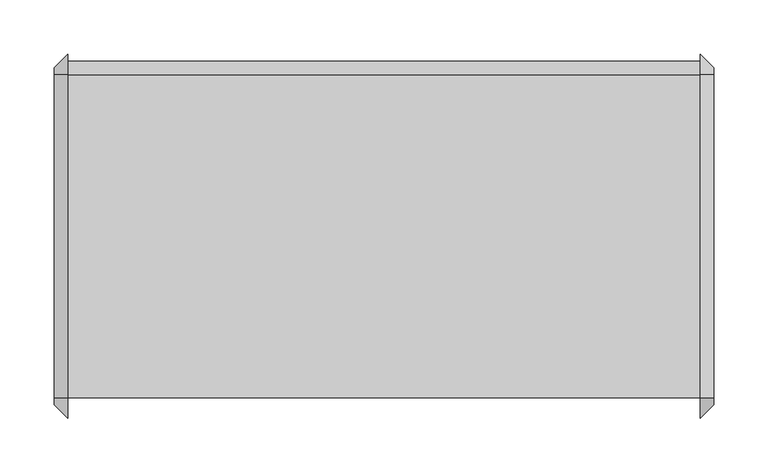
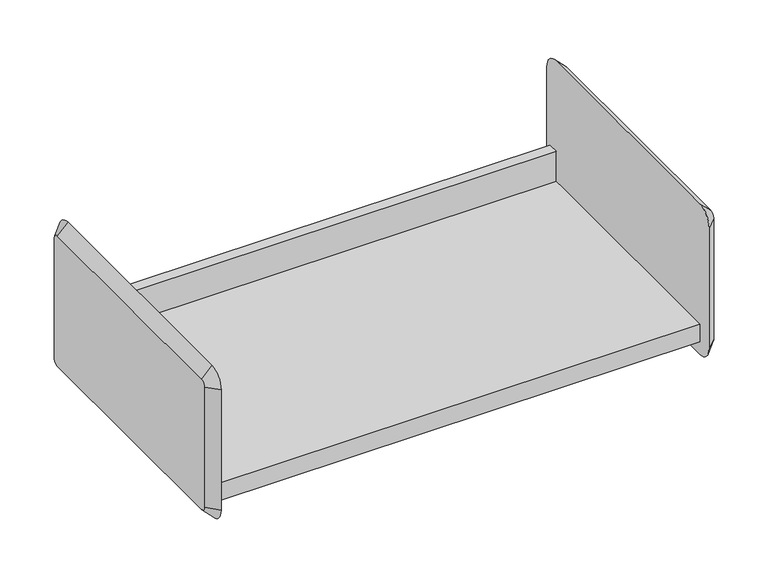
"""IFC4 building model written with IfcOpenShell, lengths in millimetres: furniture geometry."""

from ifc_helpers import new_model, si_unit, frame, origin, place, context, project, spatial, polyline, circle_curve, outline, extrude, source, transform, mapped, element, save
from ifc_brep_helpers import plane_surface, revolved_surface, advanced_brep


def furniture_eaff21fa(model_context):
    return source(origin(), model_context, "Body", "SolidModel", [
        extrude(outline(polyline([(-136.525, 1270.0), (161.925, 1270.0), (161.925, 1308.1), (174.625, 1308.1), (174.625, 1304.925), (165.1, 1304.925), (165.1, 1266.825), (-133.35, 1266.825), (-133.35, 1247.775), (-136.525, 1247.775), (-136.525, 1270.0)])), frame((-416.0420045, 0.0, 0.0), z_axis=(1.0, 0.0, 0.0), x_axis=(0.0, 1.0, 0.0)), (0.0, 0.0, 1.0), 584.2),
        advanced_brep(
        [(180.8579955, 161.925, 1409.7), (180.8579955, -136.525, 1409.7), (180.8579955, -142.875, 1403.35), (180.8579955, -142.875, 1250.95), (180.8579955, -136.525, 1244.6), (180.8579955, 161.925, 1244.6), (180.8579955, 168.275, 1250.95), (180.8579955, 168.275, 1403.35), (168.1579955, 161.925, 1422.4), (168.1579955, 180.975, 1403.35), (168.1579955, 180.975, 1250.95), (168.1579955, 161.925, 1231.9), (168.1579955, -136.525, 1231.9), (168.1579955, -155.575, 1250.95), (168.1579955, -155.575, 1403.35), (168.1579955, -136.525, 1422.4)],
        [
            (0, 1),
            (1, 2, circle_curve(frame((180.8579955, -136.525, 1403.35), z_axis=(1.0, 2.0730084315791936e-12, -2.1742607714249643e-12), x_axis=(2.1742640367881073e-12, 0.0, 1.0)), 6.35)),
            (2, 3),
            (3, 4, circle_curve(frame((180.8579955, -136.525, 1250.95), z_axis=(1.0, 2.059685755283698e-12, 2.0463630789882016e-12), x_axis=(2.059647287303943e-12, -1.0, 0.0)), 6.35)),
            (4, 5),
            (5, 6, circle_curve(frame((180.8579955, 161.925, 1250.95), z_axis=(1.0, 2.088995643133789e-12, -2.1103119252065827e-12), x_axis=(-2.1103612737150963e-12, 0.0, -1.0)), 6.35)),
            (6, 7),
            (7, 0, circle_curve(frame((180.8579955, 161.925, 1403.35), z_axis=(1.0, 2.075672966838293e-12, 1.9824142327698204e-12), x_axis=(-2.075662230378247e-12, 1.0, 0.0)), 6.35)),
            (8, 9, circle_curve(frame((168.1579955, 161.925, 1403.35), z_axis=(-1.0, -2.075672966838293e-12, -1.9824142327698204e-12), x_axis=(-2.075662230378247e-12, 1.0, 0.0)), 19.05)),
            (9, 10),
            (10, 11, circle_curve(frame((168.1579955, 161.925, 1250.95), z_axis=(-1.0, -2.088995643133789e-12, 2.1103119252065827e-12), x_axis=(-2.1103612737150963e-12, 0.0, -1.0)), 19.05)),
            (11, 12),
            (12, 13, circle_curve(frame((168.1579955, -136.525, 1250.95), z_axis=(-1.0, -2.059685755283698e-12, -2.0463630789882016e-12), x_axis=(2.059647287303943e-12, -1.0, 0.0)), 19.05)),
            (13, 14),
            (14, 15, circle_curve(frame((168.1579955, -136.525, 1403.35), z_axis=(-1.0, -2.0730084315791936e-12, 2.1742607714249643e-12), x_axis=(2.1742640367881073e-12, 0.0, 1.0)), 19.05)),
            (15, 8),
            (15, 1),
            (0, 8),
            (14, 2),
            (13, 3),
            (12, 4),
            (11, 5),
            (10, 6),
            (9, 7),
        ],
        [
            plane_surface(frame((180.8579955, 12.7, 1327.15), z_axis=(1.0, 0.0, 0.0), x_axis=(0.0, -1.0, 0.0))),
            plane_surface(frame((168.1579955, 12.7, 1327.15), z_axis=(-1.0, 0.0, 0.0), x_axis=(0.0, -1.0, 0.0))),
            plane_surface(frame((168.1579955, 12.7, 1422.4), z_axis=(0.7071067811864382, 0.0, 0.7071067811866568), x_axis=(0.0, -1.0, 0.0))),
            revolved_surface(polyline([(180.8579955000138, -136.525, 1409.6999999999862), (168.1579955, -136.525, 1422.4)]), (187.2079955, -136.525, 1403.35), (-1.0, -2.0730084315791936e-12, 2.1742607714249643e-12)),
            plane_surface(frame((168.1579955, -155.575, 1327.15), z_axis=(0.707106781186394, -0.7071067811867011, 0.0), x_axis=(0.0, 0.0, -1.0))),
            revolved_surface(polyline([(180.85799550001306, -142.87499999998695, 1250.95), (168.1579955, -155.575, 1250.95)]), (187.2079955, -136.525, 1250.95), (-1.0, -2.059685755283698e-12, -2.0463630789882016e-12)),
            plane_surface(frame((168.1579955, 12.7, 1231.9), z_axis=(0.7071067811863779, 0.0, -0.7071067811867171), x_axis=(0.0, 1.0, 0.0))),
            revolved_surface(polyline([(180.8579955, 161.925, 1244.6000000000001), (168.15799549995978, 161.925, 1231.8999999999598)]), (187.2079955, 161.925, 1250.95), (-1.0, -2.088995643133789e-12, 2.1103119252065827e-12)),
            plane_surface(frame((168.1579955, 180.975, 1327.15), z_axis=(0.707106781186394, 0.7071067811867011, 0.0), x_axis=(0.0, 0.0, 1.0))),
            revolved_surface(polyline([(180.8579955, 168.27500000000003, 1403.35), (168.15799549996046, 180.97500000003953, 1403.35)]), (187.2079955, 161.925, 1403.35), (-1.0, -2.075672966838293e-12, -1.9824142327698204e-12)),
        ],
        [
            (0, [[1, 2, 3, 4, 5, 6, 7, 8]]),
            (1, [[9, 10, 11, 12, 13, 14, 15, 16]]),
            (2, [[-16, 17, -1, 18]]),
            (3, [[-15, 19, -2, -17]]),
            (4, [[-14, 20, -3, -19]]),
            (5, [[-13, 21, -4, -20]]),
            (6, [[-12, 22, -5, -21]]),
            (7, [[-11, 23, -6, -22]]),
            (8, [[-10, 24, -7, -23]]),
            (9, [[-9, -18, -8, -24]]),
        ],
    ),
        advanced_brep(
        [(-428.7420045, -136.525, 1409.7), (-428.7420045, 161.925, 1409.7), (-428.7420045, 168.275, 1403.35), (-428.7420045, 168.275, 1250.95), (-428.7420045, 161.925, 1244.6), (-428.7420045, -136.525, 1244.6), (-428.7420045, -142.875, 1250.95), (-428.7420045, -142.875, 1403.35), (-416.0420045, -136.525, 1422.4), (-416.0420045, -155.575, 1403.35), (-416.0420045, -155.575, 1250.95), (-416.0420045, -136.525, 1231.9), (-416.0420045, 161.925, 1231.9), (-416.0420045, 180.975, 1250.95), (-416.0420045, 180.975, 1403.35), (-416.0420045, 161.925, 1422.4)],
        [
            (0, 1),
            (1, 2, circle_curve(frame((-428.7420045, 161.925, 1403.35), z_axis=(-1.0, 0.0, 0.0), x_axis=(0.0, 0.0, 1.0)), 6.35)),
            (2, 3),
            (3, 4, circle_curve(frame((-428.7420045, 161.925, 1250.95), z_axis=(-1.0, 0.0, 0.0), x_axis=(0.0, 1.0, 0.0)), 6.35)),
            (4, 5),
            (5, 6, circle_curve(frame((-428.7420045, -136.525, 1250.95), z_axis=(-1.0, 0.0, 0.0), x_axis=(0.0, 0.0, -1.0)), 6.35)),
            (6, 7),
            (7, 0, circle_curve(frame((-428.7420045, -136.525, 1403.35), z_axis=(-1.0, 0.0, 0.0), x_axis=(0.0, -1.0, 0.0)), 6.35)),
            (8, 9, circle_curve(frame((-416.0420045, -136.525, 1403.35), z_axis=(1.0, 0.0, 0.0), x_axis=(0.0, -1.0, 0.0)), 19.05)),
            (9, 10),
            (10, 11, circle_curve(frame((-416.0420045, -136.525, 1250.95), z_axis=(1.0, 0.0, 0.0), x_axis=(0.0, 0.0, -1.0)), 19.05)),
            (11, 12),
            (12, 13, circle_curve(frame((-416.0420045, 161.925, 1250.95), z_axis=(1.0, 0.0, 0.0), x_axis=(0.0, 1.0, 0.0)), 19.05)),
            (13, 14),
            (14, 15, circle_curve(frame((-416.0420045, 161.925, 1403.35), z_axis=(1.0, 0.0, 0.0), x_axis=(0.0, 0.0, 1.0)), 19.05)),
            (15, 8),
            (15, 1),
            (0, 8),
            (14, 2),
            (13, 3),
            (12, 4),
            (11, 5),
            (10, 6),
            (9, 7),
        ],
        [
            plane_surface(frame((-428.7420045, 12.7, 1327.15), z_axis=(-1.0, 0.0, 0.0), x_axis=(0.0, -1.0, 0.0))),
            plane_surface(frame((-416.0420045, 12.7, 1327.15), z_axis=(1.0, 0.0, 0.0), x_axis=(0.0, -1.0, 0.0))),
            plane_surface(frame((-416.0420045, 12.7, 1422.4), z_axis=(-0.7071067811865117, 0.0, 0.7071067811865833), x_axis=(0.0, 1.0, 0.0))),
            revolved_surface(polyline([(-428.7420045, 161.925, 1409.7), (-416.0420045, 161.925, 1422.4)]), (-435.0920045, 161.925, 1403.35), (1.0, 0.0, 0.0)),
            plane_surface(frame((-416.0420045, 180.975, 1327.15), z_axis=(-0.7071067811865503, 0.7071067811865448, 0.0), x_axis=(0.0, 0.0, -1.0))),
            revolved_surface(polyline([(-428.7420045, 168.27499999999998, 1250.95), (-416.0420045, 180.975, 1250.95)]), (-435.0920045, 161.925, 1250.95), (1.0, 0.0, 0.0)),
            plane_surface(frame((-416.0420045, 12.7, 1231.9), z_axis=(-0.707106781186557, 0.0, -0.7071067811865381), x_axis=(0.0, -1.0, 0.0))),
            revolved_surface(polyline([(-428.7420045, -136.525, 1244.6000000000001), (-416.0420045, -136.525, 1231.9)]), (-435.0920045, -136.525, 1250.95), (1.0, 0.0, 0.0)),
            plane_surface(frame((-416.0420045, -155.575, 1327.15), z_axis=(-0.7071067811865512, -0.7071067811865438, 0.0), x_axis=(0.0, 0.0, 1.0))),
            revolved_surface(polyline([(-428.7420045, -142.87499999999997, 1403.35), (-416.0420045, -155.575, 1403.35)]), (-435.0920045, -136.525, 1403.35), (1.0, 0.0, 0.0)),
        ],
        [
            (0, [[1, 2, 3, 4, 5, 6, 7, 8]]),
            (1, [[9, 10, 11, 12, 13, 14, 15, 16]]),
            (2, [[-16, 17, -1, 18]]),
            (3, [[-15, 19, -2, -17]]),
            (4, [[-14, 20, -3, -19]]),
            (5, [[-13, 21, -4, -20]]),
            (6, [[-12, 22, -5, -21]]),
            (7, [[-11, 23, -6, -22]]),
            (8, [[-10, 24, -7, -23]]),
            (9, [[-9, -18, -8, -24]]),
        ],
    ),
    ])


if __name__ == "__main__":
    model = new_model("IFC4")
    model_context = context("Model", 3, world=origin())
    ifc_project = project(units=[si_unit("LENGTHUNIT", "METRE", prefix="MILLI")], contexts=[model_context])
    site = spatial("IfcSite", under=ifc_project)
    building = spatial("IfcBuilding", under=site)
    placement = place(None, origin())
    furniture_shape = furniture_eaff21fa(model_context)
    element("IfcFurniture", 1, ObjectType="HermanMiller_ActionOffice_A3220_B-StyleStorageDisplay : Shelf 13\"D x 24\"W", at=placement, inside=building, context=model_context, shape_type="MappedRepresentation", body=[
        mapped(furniture_shape, transform((0.0, 0.0, 0.0), x_axis=(1.0, 0.0, 0.0), y_axis=(0.0, 1.0, 0.0), z_axis=(0.0, 0.0, 1.0))),
    ])
    save(model, "model.ifc")
